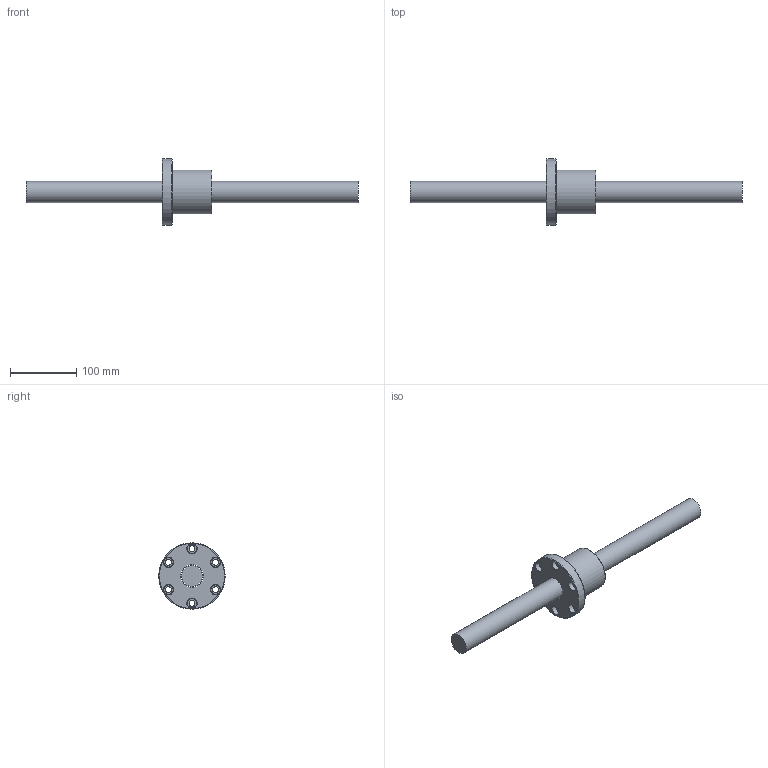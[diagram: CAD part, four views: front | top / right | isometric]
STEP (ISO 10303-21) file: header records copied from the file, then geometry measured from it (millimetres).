
FILE_DESCRIPTION (( 'STEP AP203' ), '1' );
FILE_NAME ('SFV03208N-4.8.step', '2024-05-20T03:39:10', ( '' ), ( '' ), 'SwSTEP 2.0', 'SolidWorks 2022', '' );
FILE_SCHEMA (( 'CONFIG_CONTROL_DESIGN' ));
Length unit declared in the file: millimetre
Products named in the file (1): SFV03208N-4.8
Bounding box: 500 x 100 x 100 mm (x, y, z)
Volume: 643257.3 mm3; surface area: 93565 mm2
Topology: 2 solids, 2 shells, 55 faces, 122 edges, 78 vertices
Faces by surface type: cylinder 23, cone 13, plane 12, bspline 4, torus 3
Full cylindrical faces by diameter (mm): 4 x1, 7 x5, 9 x6, 14 x6, 32 x1, 34.6 x1, 66 x1, 100 x1
Entity records: 2928 total; most frequent: CARTESIAN_POINT 1929, DIRECTION 196, ORIENTED_EDGE 126, EDGE_LOOP 108, AXIS2_PLACEMENT_3D 96, FACE_OUTER_BOUND 72, EDGE_CURVE 63, VERTEX_POINT 59
